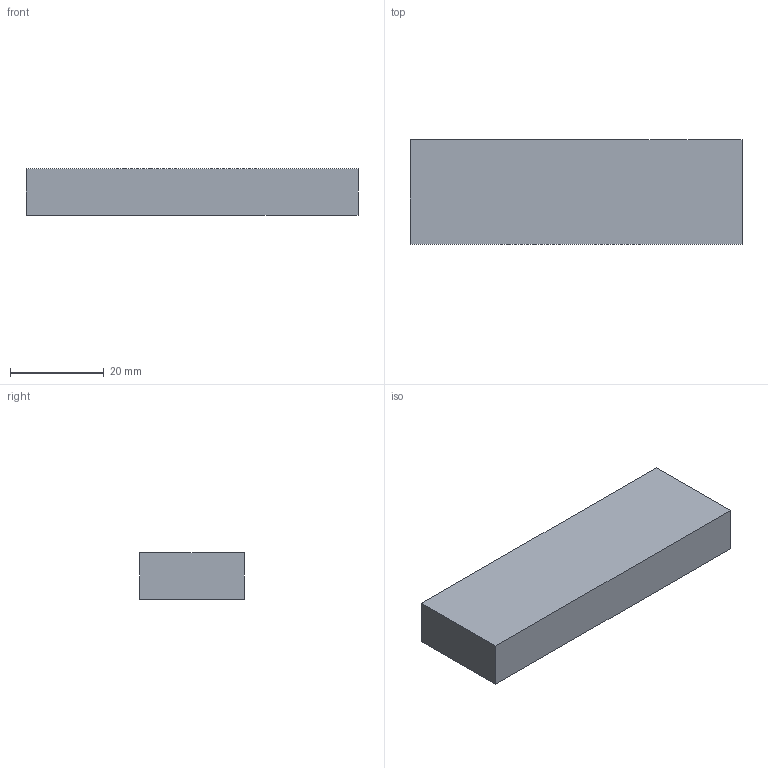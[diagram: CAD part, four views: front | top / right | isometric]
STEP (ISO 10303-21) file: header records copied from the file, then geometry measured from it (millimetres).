
FILE_DESCRIPTION(('Open CASCADE Model'),'2;1');
FILE_NAME('Open CASCADE Shape Model','2026-11-19T12:15:07',('Author'),( 'Open CASCADE'),'Open CASCADE STEP processor 7.8','Open CASCADE 7.8' ,'Unknown');
FILE_SCHEMA(('AUTOMOTIVE_DESIGN { 1 0 10303 214 1 1 1 1 }'));
Length unit declared in the file: millimetre
Products named in the file (1): Open CASCADE STEP translator 7.8 1
Bounding box: 70.87 x 22.35 x 10 mm (x, y, z)
Volume: 10557.7 mm3; surface area: 6853.3 mm2
Topology: 1 solids, 1 shells, 66 faces, 186 edges, 122 vertices
Faces by surface type: plane 38, cylinder 22, cone 6
Full cylindrical faces by diameter (mm): 2.05 x6
Entity records: 4536 total; most frequent: CARTESIAN_POINT 909, DIRECTION 688, LINE 458, VECTOR 458, ORIENTED_EDGE 360, PCURVE 360, DEFINITIONAL_REPRESENTATION 360, EDGE_CURVE 180
